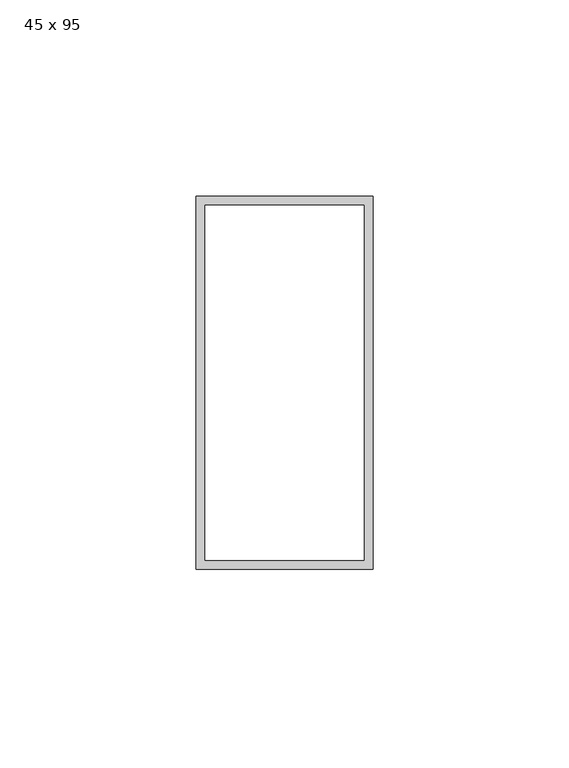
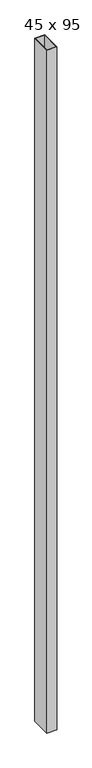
"""IFC4 building model written with IfcOpenShell, lengths in millimetres: column geometry, Wood Tube Pappersregel : 45 x 95."""

import ifcopenshell
import ifcopenshell.guid

model = None  # the IFC model being written
_history = None  # IfcOwnerHistory: only IFC2X3 demands one
_inside = {}  # id of a spatial element -> (the spatial element, [elements in it])
_under = {}  # id of a project, library or spatial element -> (it, [spatial elements below it])
_declared = {}  # id of a project -> (the project, [libraries it declares])
_typed = {}  # id of a type object -> (the type object, [elements of that type])
_made_of = {}  # id of a material, layer set ... -> (it, [elements and type objects made of it])


def new_model(schema):
    """Start an empty IFC model of exactly this schema.

    Asked for "IFC4X3", IfcOpenShell would pick the latest addendum, in which some entities
    have other attributes; the version numbers below select the first issue.
    IFC2X3 requires an IfcOwnerHistory on every rooted entity: one is made here for all.
    """
    global model, _history
    if schema == "IFC4X3":
        model = ifcopenshell.file(schema_version=(4, 3, 0, 0))
    else:
        model = ifcopenshell.file(schema=schema)
    _inside.clear()
    _under.clear()
    _declared.clear()
    _typed.clear()
    _made_of.clear()
    _history = None
    if model.schema == "IFC2X3":
        org = make("IfcOrganization", Name="unknown")
        user = make(
            "IfcPersonAndOrganization",
            ThePerson=make("IfcPerson", FamilyName="unknown"),
            TheOrganization=org,
        )
        app = make(
            "IfcApplication",
            ApplicationDeveloper=org,
            Version="unknown",
            ApplicationFullName="unknown",
            ApplicationIdentifier="unknown",
        )
        _history = make(
            "IfcOwnerHistory",
            OwningUser=user,
            OwningApplication=app,
            ChangeAction="ADDED",
            CreationDate=0,
        )
    return model


def make(cls, **values):
    """One entity of the class cls with the attributes given. An attribute that is None is left unset."""
    return model.create_entity(
        cls, **{name: value for name, value in values.items() if value is not None}
    )


def rooted(cls, **values):
    """An entity with a GlobalId (a new one), such as an element, a storey or a relation."""
    return make(cls, GlobalId=ifcopenshell.guid.new(), OwnerHistory=_history, **values)


def si_unit(unit_type, name, prefix=None):
    """IfcSIUnit, for example si_unit("LENGTHUNIT", "METRE", prefix="MILLI")."""
    return make("IfcSIUnit", UnitType=unit_type, Prefix=prefix, Name=name)


def assignment(units):
    """IfcUnitAssignment: the units of a project."""
    return None if units is None else make("IfcUnitAssignment", Units=units)


def point(xyz):
    """IfcCartesianPoint."""
    return None if xyz is None else make("IfcCartesianPoint", Coordinates=xyz)


def direction(xyz):
    """IfcDirection."""
    return None if xyz is None else make("IfcDirection", DirectionRatios=xyz)


def frame(location, z_axis=None, x_axis=None):
    """IfcAxis2Placement3D, a coordinate frame: its origin and axes. An axis left out is left unset."""
    return make(
        "IfcAxis2Placement3D",
        Location=point(location),
        Axis=direction(z_axis),
        RefDirection=direction(x_axis),
    )


def origin():
    """The frame at (0, 0, 0) with its axes left unset."""
    return frame((0.0, 0.0, 0.0))


def origin_with_axes():
    """The frame at (0, 0, 0) with the z axis (0, 0, 1) and the x axis (1, 0, 0) written out."""
    return frame((0.0, 0.0, 0.0), z_axis=(0.0, 0.0, 1.0), x_axis=(1.0, 0.0, 0.0))


def place(relative_to, where):
    """IfcLocalPlacement: puts the frame where relative to a parent placement (None: the world)."""
    return make(
        "IfcLocalPlacement", PlacementRelTo=relative_to, RelativePlacement=where
    )


def context(
    kind, dimensions, precision=None, world=None, true_north=None, identifier=None
):
    """IfcGeometricRepresentationContext, for example the 3D "Model" context."""
    return make(
        "IfcGeometricRepresentationContext",
        ContextIdentifier=identifier,
        ContextType=kind,
        CoordinateSpaceDimension=dimensions,
        Precision=precision,
        WorldCoordinateSystem=world,
        TrueNorth=true_north,
    )


def project(units=None, contexts=None):
    """IfcProject with its units and contexts."""
    return rooted(
        "IfcProject",
        Name="project",
        RepresentationContexts=contexts,
        UnitsInContext=assignment(units),
    )


def spatial(cls, under=None, at=None, **own):
    """A site, building, storey or space (cls), placed at a placement, below another one or the project."""
    s = rooted(cls, ObjectPlacement=at, **own)
    if under is not None:
        _under.setdefault(under.id(), (under, []))[1].append(s)
    return s


def polyline(points):
    """IfcPolyline through the points."""
    return make("IfcPolyline", Points=[point(p) for p in points])


def outline(outer, holes=None, kind="AREA"):
    """IfcArbitraryClosedProfileDef: a profile drawn as a closed curve; with holes, ...WithVoids."""
    if holes is None:
        return make("IfcArbitraryClosedProfileDef", ProfileType=kind, OuterCurve=outer)
    return make(
        "IfcArbitraryProfileDefWithVoids",
        ProfileType=kind,
        OuterCurve=outer,
        InnerCurves=holes,
    )


def extrude(swept, where, along, depth):
    """IfcExtrudedAreaSolid: the profile swept, set in the frame where, extruded along a direction by depth."""
    return make(
        "IfcExtrudedAreaSolid",
        SweptArea=swept,
        Position=where,
        ExtrudedDirection=direction(along),
        Depth=depth,
    )


def shape(context_of_items, identifier, shape_type, items):
    """IfcShapeRepresentation: the items that make up one representation, for example the "Body"."""
    return make(
        "IfcShapeRepresentation",
        ContextOfItems=context_of_items,
        RepresentationIdentifier=identifier,
        RepresentationType=shape_type,
        Items=items,
    )


def source(mapping_origin, context_of_items, identifier, shape_type, items):
    """IfcRepresentationMap: a shape defined once, which mapped items show again and again."""
    return make(
        "IfcRepresentationMap",
        MappingOrigin=mapping_origin,
        MappedRepresentation=shape(context_of_items, identifier, shape_type, items),
    )


def transform(
    local_origin,
    x_axis=None,
    y_axis=None,
    z_axis=None,
    scale=None,
    scale2=None,
    scale3=None,
    uniform=True,
):
    """IfcCartesianTransformationOperator3D, or its non-uniform kind. x_axis, y_axis, z_axis: its Axis1, 2, 3."""
    if uniform:
        return make(
            "IfcCartesianTransformationOperator3D",
            Axis1=direction(x_axis),
            Axis2=direction(y_axis),
            LocalOrigin=point(local_origin),
            Scale=scale,
            Axis3=direction(z_axis),
        )
    return make(
        "IfcCartesianTransformationOperator3DnonUniform",
        Axis1=direction(x_axis),
        Axis2=direction(y_axis),
        LocalOrigin=point(local_origin),
        Scale=scale,
        Axis3=direction(z_axis),
        Scale2=scale2,
        Scale3=scale3,
    )


def mapped(mapping_source, mapping_target):
    """IfcMappedItem: shows the shape of a source again, moved by a transform."""
    return make(
        "IfcMappedItem", MappingSource=mapping_source, MappingTarget=mapping_target
    )


def made_of(thing, what):
    """Note that an element or type object is made of a material, layer set ...; save() writes the relation."""
    if what is not None:
        _made_of.setdefault(what.id(), (what, []))[1].append(thing)
    return thing


def element(
    cls,
    number,
    at=None,
    inside=None,
    cuts=None,
    type_object=None,
    material=None,
    context=None,
    identifier="Body",
    shape_type=None,
    held_by="IfcProductDefinitionShape",
    body=None,
    shapes=None,
    **own,
):
    """One element of the class cls, such as IfcWall. Its Tag is "e" and its number.

    at: its placement. inside: the storey or other place that contains it. cuts: it is an
    opening in that element (IfcRelVoidsElement). A single representation is given by context,
    identifier, shape_type and body (its items); several are given by shapes. held_by: the class
    of the entity that holds the representations. save() writes the other relations.
    """
    e = rooted(cls, Tag="e%d" % number, ObjectPlacement=at, **own)
    if body is not None:
        shapes = [shape(context, identifier, shape_type, body)]
    if shapes is not None:
        e.Representation = make(held_by, Representations=shapes)
    if inside is not None:
        _inside.setdefault(inside.id(), (inside, []))[1].append(e)
    if cuts is not None:
        rooted(
            "IfcRelVoidsElement", RelatingBuildingElement=cuts, RelatedOpeningElement=e
        )
    if type_object is not None:
        _typed.setdefault(type_object.id(), (type_object, []))[1].append(e)
    return made_of(e, material)


def aggregate(whole, parts):
    """IfcRelAggregates: a whole, such as a stair, and the parts it consists of."""
    return rooted("IfcRelAggregates", RelatingObject=whole, RelatedObjects=parts)


def save(model, path):
    """Write the relations noted so far, then the file.

    IfcRelAggregates (storeys below a building ...), IfcRelContainedInSpatialStructure (elements
    in a storey), IfcRelDefinesByType, IfcRelAssociatesMaterial and IfcRelDeclares: one each for
    every whole, place, type object, material and project.
    """
    for whole, parts in _under.values():
        aggregate(whole, parts)
    for where, things in _inside.values():
        rooted(
            "IfcRelContainedInSpatialStructure",
            RelatedElements=things,
            RelatingStructure=where,
        )
    for kind, things in _typed.values():
        rooted("IfcRelDefinesByType", RelatedObjects=things, RelatingType=kind)
    for what, things in _made_of.values():
        rooted("IfcRelAssociatesMaterial", RelatedObjects=things, RelatingMaterial=what)
    for by, libraries in _declared.values():
        rooted("IfcRelDeclares", RelatingContext=by, RelatedDefinitions=libraries)
    model.write(path)


def column_45_x_95_4a781784(model_context):
    return source(origin(), model_context, "Body", "SweptSolid", [
        extrude(outline(polyline([(22.5, -47.5), (-22.5, -47.5), (-22.5, 47.5), (22.5, 47.5), (22.5, -47.5)]), holes=[polyline([(20.2, 45.2), (-20.2, 45.2), (-20.2, -45.2), (20.2, -45.2), (20.2, 45.2)])]), origin_with_axes(), (0.0, 0.0, 1.0), 3300.0),
    ])


if __name__ == "__main__":
    model = new_model("IFC4")
    model_context = context("Model", 3, world=origin())
    ifc_project = project(units=[si_unit("LENGTHUNIT", "METRE", prefix="MILLI")], contexts=[model_context])
    site = spatial("IfcSite", under=ifc_project)
    building = spatial("IfcBuilding", under=site)
    placement = place(None, origin())
    column_45_x_95_shape = column_45_x_95_4a781784(model_context)
    element("IfcColumn", 1, ObjectType="Wood Tube Pappersregel : 45 x 95", at=placement, inside=building, context=model_context, shape_type="MappedRepresentation", body=[
        mapped(column_45_x_95_shape, transform((0.0, 0.0, 0.0), x_axis=(1.0, 0.0, 0.0), y_axis=(0.0, 1.0, 0.0), z_axis=(0.0, 0.0, 1.0))),
    ])
    save(model, "model.ifc")
